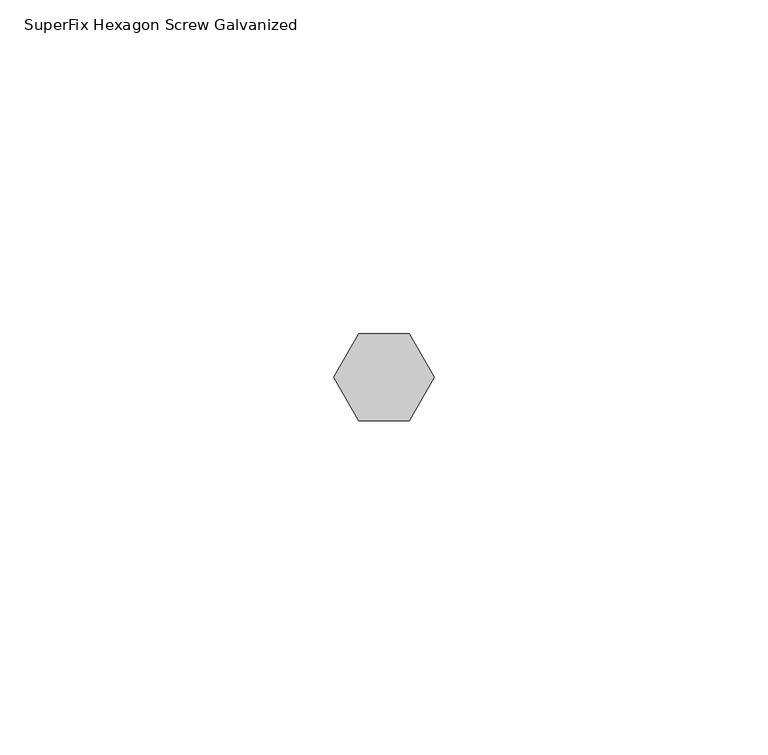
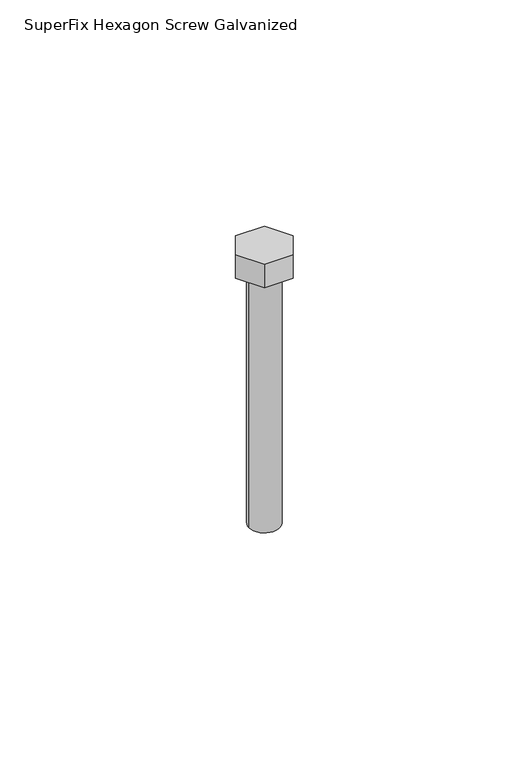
"""IFC4 building model written with IfcOpenShell, lengths in millimetres: valve geometry, SuperFix Hexagon Screw Galvanized : Hexagon Screw Galvanized Extra  M8 × 70."""

from ifc_helpers import new_model, si_unit, frame, origin, origin_with_axes, place, context, project, spatial, circle_curve, source, transform, mapped, element, save
from ifc_brep_helpers import plane_surface, cylinder_surface, advanced_brep


def superfix_hexagon_screw_galvanized_3d7df342(model_context):
    return source(origin(), model_context, "Body", "AdvancedBrep", [
        advanced_brep(
        [(-7.5055535, 0.0, 6.5), (-3.7527767, -6.5, 6.5), (3.7527767, -6.5, 6.5), (7.5055535, 0.0, 6.5), (3.7527767, 6.5, 6.5), (-3.7527767, 6.5, 6.5), (-7.5055535, 0.0, 0.0), (-3.7527767, 6.5, 0.0), (3.7527767, 6.5, 0.0), (7.5055535, 0.0, 0.0), (3.7527767, -6.5, 0.0), (-3.7527767, -6.5, 0.0), (-4.0, 0.0, 0.0), (4.0, 0.0, 0.0), (-4.0, 0.0, -70.0), (4.0, 0.0, -70.0)],
        [
            (0, 1),
            (1, 2),
            (2, 3),
            (3, 4),
            (4, 5),
            (5, 0),
            (6, 7),
            (7, 8),
            (8, 9),
            (9, 10),
            (10, 11),
            (11, 6),
            (12, 13, circle_curve(origin_with_axes(), 4.0)),
            (13, 12, circle_curve(origin_with_axes(), 4.0)),
            (0, 6),
            (11, 1),
            (10, 2),
            (9, 3),
            (8, 4),
            (7, 5),
            (14, 15, circle_curve(frame((0.0, 0.0, -70.0), z_axis=(0.0, 0.0, -1.0), x_axis=(1.0, 0.0, 0.0)), 4.0)),
            (15, 14, circle_curve(frame((0.0, 0.0, -70.0), z_axis=(0.0, 0.0, -1.0), x_axis=(1.0, 0.0, 0.0)), 4.0)),
            (15, 13),
            (12, 14),
        ],
        [
            plane_surface(frame((-7.5055535, 0.0, 6.5), z_axis=(0.0, 0.0, 1.0), x_axis=(0.49999999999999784, -0.8660254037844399, 0.0))),
            plane_surface(frame((-7.5055535, 0.0, 0.0), z_axis=(0.0, 0.0, -1.0), x_axis=(-0.49999999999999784, 0.8660254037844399, 0.0))),
            plane_surface(frame((-7.5055535, 0.0, 6.5), z_axis=(-0.8660254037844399, -0.49999999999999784, 0.0), x_axis=(0.0, 0.0, -1.0))),
            plane_surface(frame((-3.7527767, -6.5, 6.5), z_axis=(0.0, -1.0, 0.0), x_axis=(0.0, 0.0, -1.0))),
            plane_surface(frame((3.7527767, -6.5, 6.5), z_axis=(0.8660254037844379, -0.5000000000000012, 0.0), x_axis=(0.0, 0.0, -1.0))),
            plane_surface(frame((7.5055535, 0.0, 6.5), z_axis=(0.8660254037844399, 0.4999999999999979, 0.0), x_axis=(0.0, 0.0, -1.0))),
            plane_surface(frame((3.7527767, 6.5, 6.5), z_axis=(0.0, 1.0, 0.0), x_axis=(0.0, 0.0, -1.0))),
            plane_surface(frame((-3.7527767, 6.5, 6.5), z_axis=(-0.866025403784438, 0.5000000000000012, 0.0), x_axis=(0.0, 0.0, -1.0))),
            plane_surface(frame((4.0, 0.0, -70.0), z_axis=(0.0, 0.0, -1.0), x_axis=(0.0, -1.0, 0.0))),
            cylinder_surface(frame((0.0, 0.0, -70.0), z_axis=(0.0, 0.0, 1.0), x_axis=(1.0, 0.0, 0.0)), 4.0),
        ],
        [
            (0, [[1, 2, 3, 4, 5, 6]]),
            (1, [[7, 8, 9, 10, 11, 12], [13, 14]]),
            (2, [[-1, 15, -12, 16]]),
            (3, [[-2, -16, -11, 17]]),
            (4, [[-3, -17, -10, 18]]),
            (5, [[-4, -18, -9, 19]]),
            (6, [[-5, -19, -8, 20]]),
            (7, [[-6, -20, -7, -15]]),
            (8, [[21, 22]]),
            (9, [[-22, 23, -13, 24]]),
            (9, [[-21, -24, -14, -23]]),
        ],
    ),
    ])


if __name__ == "__main__":
    model = new_model("IFC4")
    model_context = context("Model", 3, world=origin())
    ifc_project = project(units=[si_unit("LENGTHUNIT", "METRE", prefix="MILLI")], contexts=[model_context])
    site = spatial("IfcSite", under=ifc_project)
    building = spatial("IfcBuilding", under=site)
    placement = place(None, origin())
    superfix_hexagon_screw_galvanized_shape = superfix_hexagon_screw_galvanized_3d7df342(model_context)
    element("IfcValve", 1, ObjectType="SuperFix Hexagon Screw Galvanized : Hexagon Screw Galvanized Extra  M8 × 70", at=placement, inside=building, context=model_context, shape_type="MappedRepresentation", body=[
        mapped(superfix_hexagon_screw_galvanized_shape, transform((0.0, 0.0, 0.0), x_axis=(1.0, 0.0, 0.0), y_axis=(0.0, 1.0, 0.0), z_axis=(0.0, 0.0, 1.0))),
    ])
    save(model, "model.ifc")
